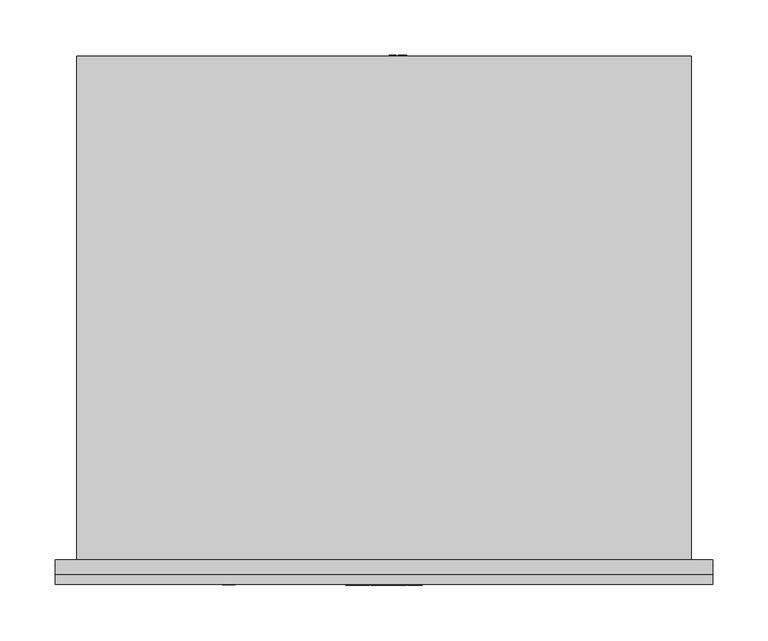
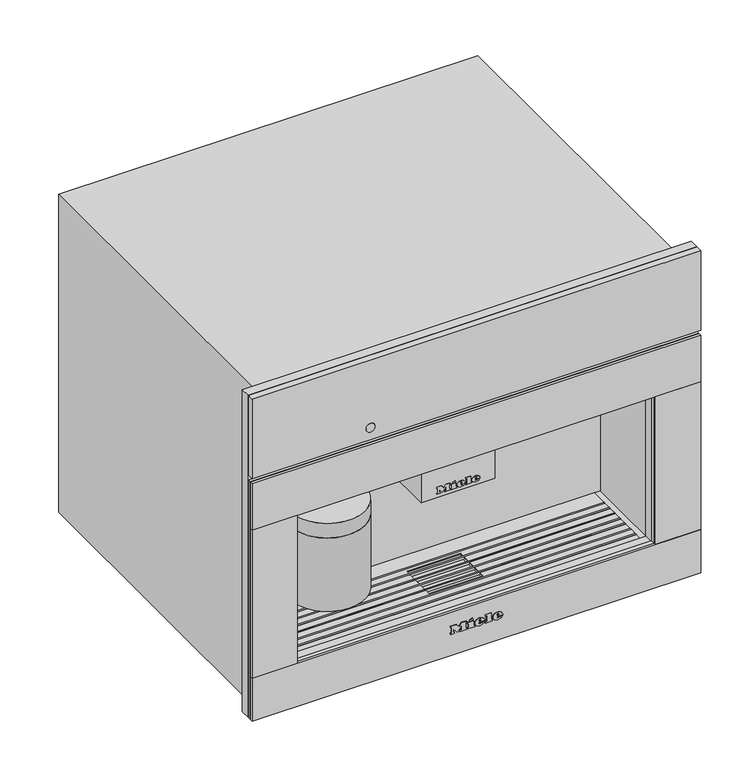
"""IFC4 building model written with IfcOpenShell, lengths in millimetres: proxy geometry, 12642250_GBX_CVA7440_PEBE : 29744050_GBX_12642250_CVA7440_PEBE."""

from ifc_helpers import new_model, si_unit, point, frame, frame_2d, origin, place, context, project, spatial, polyline, circle_curve, ellipse_curve, trimmed, segment, composite_curve, outline, extrude, faceted_brep, source, transform, mapped, element, save
from ifc_brep_helpers import plane_surface, cylinder_surface, revolved_surface, extruded_surface, advanced_brep


def specialty_equipment_f7a23d79(model_context):
    return source(origin(), model_context, "Body", "SolidModel", [
        extrude(outline(composite_curve([segment(trimmed(circle_curve(frame_2d((-14.0, 36.5)), 5.0), [point((-9.0, 36.5))], [point((-19.0, 36.5))], False, "CARTESIAN"), True, "CONTINUOUS"), segment(trimmed(circle_curve(frame_2d((-14.0, 36.5)), 5.0), [point((-19.0, 36.5))], [point((-9.0, 36.5))], False, "CARTESIAN"), True, "CONTINUOUS")], self_intersect=False)), frame((0.0, 0.0, 193.0), z_axis=(0.0, 0.0, 1.0), x_axis=(1.0, 0.0, 0.0)), (0.0, 0.0, 1.0), 5.0),
        extrude(outline(composite_curve([segment(trimmed(circle_curve(frame_2d((14.0, 36.5)), 5.0), [point((19.0, 36.5))], [point((9.0, 36.5))], False, "CARTESIAN"), True, "CONTINUOUS"), segment(trimmed(circle_curve(frame_2d((14.0, 36.5)), 5.0), [point((9.0, 36.5))], [point((19.0, 36.5))], False, "CARTESIAN"), True, "CONTINUOUS")], self_intersect=False)), frame((0.0, 0.0, 193.0), z_axis=(0.0, 0.0, 1.0), x_axis=(1.0, 0.0, 0.0)), (0.0, 0.0, 1.0), 5.0),
        extrude(outline(composite_curve([segment(trimmed(circle_curve(frame_2d((-156.5, 49.5)), 50.0), [point((-106.5, 49.5))], [point((-206.5, 49.5))], False, "CARTESIAN"), True, "CONTINUOUS"), segment(trimmed(circle_curve(frame_2d((-156.5, 49.5)), 50.0), [point((-206.5, 49.5))], [point((-106.5, 49.5))], False, "CARTESIAN"), True, "CONTINUOUS")], self_intersect=False)), frame((0.0, 0.0, 100.0), z_axis=(0.0, 0.0, 1.0), x_axis=(1.0, 0.0, 0.0)), (0.0, 0.0, 1.0), 103.0),
        extrude(outline(polyline([(-49.0, 95.0), (49.0, 95.0), (49.0, 20.0), (-49.0, 20.0), (-49.0, 95.0)])), frame((0.0, 0.0, 198.0), z_axis=(0.0, 0.0, 1.0), x_axis=(1.0, 0.0, 0.0)), (0.0, 0.0, 1.0), 75.0),
        extrude(outline(polyline([(455.5, 297.5), (455.5, -297.5), (4.0, -297.5), (4.0, 297.5), (455.5, 297.5)]), holes=[polyline([(273.0, 237.5), (63.0, 237.5), (63.0, -237.5), (273.0, -237.5), (273.0, 237.5)])]), frame((0.0, -13.0, 0.0), z_axis=(0.0, 1.0, 0.0), x_axis=(0.0, 0.0, 1.0)), (0.0, 0.0, 1.0), 13.0),
        extrude(outline(polyline([(97.0, 20.4012141), (107.045631, 20.4012141), (107.045631, 13.1809168), (105.7899271, 13.1809168), (105.7899271, 19.1455102), (102.8076304, 19.1455102), (102.8076304, 13.4948427), (101.5519266, 13.4948427), (101.5519266, 19.1455102), (98.2557039, 19.1455102), (98.2557039, 13.0239538), (97.0, 13.0239538), (97.0, 20.4012141)])), frame((0.0, 456.0, 0.0), z_axis=(0.0, 1.0, 0.0), x_axis=(0.0, 0.0, 1.0)), (0.0, 0.0, 1.0), 1.0),
        extrude(outline(polyline([(97.0, 11.140398), (107.045631, 11.140398), (107.045631, 9.8846941), (98.2557039, 9.8846941), (98.2557039, 4.8618786), (97.0, 4.8618786), (97.0, 11.140398)])), frame((0.0, 456.0, 0.0), z_axis=(0.0, 1.0, 0.0), x_axis=(0.0, 0.0, 1.0)), (0.0, 0.0, 1.0), 1.0),
        advanced_brep(
        [(55.0, 425.5, 102.0), (55.0, 410.5, 102.0), (20.5239538, 425.5, 102.0), (5.5239538, 410.5, 102.0), (20.5239538, 456.0, 102.0), (5.5239538, 456.0, 102.0)],
        [
            (0, 1, circle_curve(frame((55.0, 418.0, 102.0), z_axis=(1.0, 0.0, 0.0), x_axis=(0.0, -1.0, 0.0)), 7.5)),
            (1, 0, circle_curve(frame((55.0, 418.0, 102.0), z_axis=(1.0, 0.0, 0.0), x_axis=(0.0, -1.0, 0.0)), 7.5)),
            (0, 2),
            (2, 3, ellipse_curve(frame((13.0239538, 418.0, 102.0), z_axis=(0.7071067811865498, -0.7071067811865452, 0.0), x_axis=(0.7071067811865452, 0.7071067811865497, 0.0)), 10.6066017, 7.5)),
            (3, 1),
            (3, 2, ellipse_curve(frame((13.0239538, 418.0, 102.0), z_axis=(0.7071067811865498, -0.7071067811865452, 0.0), x_axis=(0.7071067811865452, 0.7071067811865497, 0.0)), 10.6066017, 7.5)),
            (4, 5, circle_curve(frame((13.0239538, 456.0, 102.0), z_axis=(0.0, 1.0, 0.0), x_axis=(-1.0, 0.0, 0.0)), 7.5)),
            (5, 4, circle_curve(frame((13.0239538, 456.0, 102.0), z_axis=(0.0, 1.0, 0.0), x_axis=(-1.0, 0.0, 0.0)), 7.5)),
            (2, 4),
            (5, 3),
        ],
        [
            plane_surface(frame((55.0, 418.0, 102.0), z_axis=(1.0, 0.0, 0.0), x_axis=(0.0, 0.0, 1.0))),
            cylinder_surface(frame((55.0, 418.0, 102.0), z_axis=(1.0, 0.0, 0.0), x_axis=(0.0, -1.0, 0.0)), 7.5),
            plane_surface(frame((13.0239538, 456.0, 102.0), z_axis=(0.0, 1.0, 0.0), x_axis=(0.0, 0.0, 1.0))),
            cylinder_surface(frame((13.0239538, 418.0, 102.0), z_axis=(0.0, -1.0, 0.0), x_axis=(-1.0, 0.0, 0.0)), 7.5),
        ],
        [
            (0, [[1, 2]]),
            (1, [[-1, 3, 4, 5]]),
            (1, [[-2, -5, 6, -3]]),
            (2, [[7, 8]]),
            (3, [[-4, 9, -8, 10]]),
            (3, [[-6, -10, -7, -9]]),
        ],
    ),
        advanced_brep(
        [(-110.0, 49.5, 252.0), (-203.0, 49.5, 252.0), (-206.5, 49.5, 223.5), (-106.5, 49.5, 223.5), (-110.0, 49.5, 273.0), (-203.0, 49.5, 273.0), (-156.5, 49.5, 273.0), (-106.5, 49.5, 203.0), (-206.5, 49.5, 203.0), (-156.5, 49.5, 203.0)],
        [
            (0, 1, circle_curve(frame((-156.5, 49.5, 252.0), z_axis=(0.0, 0.0, -1.0), x_axis=(-1.0, 0.0, 0.0)), 46.5)),
            (1, 2, circle_curve(frame((-206.7961166, 49.5, 238.0012775), z_axis=(0.0, 1.0, 0.0), x_axis=(-1.0, 0.0, 0.0)), 14.5043005)),
            (2, 3, circle_curve(frame((-156.5, 49.5, 223.5), z_axis=(0.0, 0.0, 1.0), x_axis=(-1.0, 0.0, 0.0)), 50.0)),
            (3, 0, circle_curve(frame((-106.2038834, 49.5, 238.0012775), z_axis=(0.0, 1.0, 0.0), x_axis=(1.0, 0.0, 0.0)), 14.5043005)),
            (4, 5, circle_curve(frame((-156.5, 49.5, 273.0), z_axis=(0.0, 0.0, -1.0), x_axis=(-1.0, 0.0, 0.0)), 46.5)),
            (5, 1),
            (0, 4),
            (6, 4),
            (4, 5, circle_curve(frame((-156.5, 49.5, 273.0), z_axis=(0.0, 0.0, 1.0), x_axis=(-1.0, 0.0, 0.0)), 46.5)),
            (5, 6),
            (7, 8, circle_curve(frame((-156.5, 49.5, 203.0), z_axis=(0.0, 0.0, -1.0), x_axis=(-1.0, 0.0, 0.0)), 50.0)),
            (8, 9),
            (9, 7),
            (8, 7, circle_curve(frame((-156.5, 49.5, 203.0), z_axis=(0.0, 0.0, -1.0), x_axis=(-1.0, 0.0, 0.0)), 50.0)),
            (2, 8),
            (7, 3),
            (2, 3, circle_curve(frame((-156.5, 49.5, 223.5), z_axis=(0.0, 0.0, -1.0), x_axis=(-1.0, 0.0, 0.0)), 50.0)),
            (1, 0, circle_curve(frame((-156.5, 49.5, 252.0), z_axis=(0.0, 0.0, -1.0), x_axis=(-1.0, 0.0, 0.0)), 46.5)),
        ],
        [
            revolved_surface(trimmed(ellipse_curve(frame((-206.7961166, 49.5, 238.0012775), z_axis=(0.0, -1.0, 0.0), x_axis=(-1.0, 0.0, 0.0)), 14.5043005, 14.5043005), [point((-206.5, 49.5, 223.5))], [point((-203.0, 49.5, 252.0))], True, "CARTESIAN"), (-156.5, 49.5, 388.7361736), (0.0, 0.0, 1.0)),
            cylinder_surface(frame((-156.5, 49.5, 388.7361736), z_axis=(0.0, 0.0, 1.0), x_axis=(-1.0, 0.0, 0.0)), 46.5),
            plane_surface(frame((-156.5, 49.5, 273.0), z_axis=(0.0, 0.0, 1.0), x_axis=(-1.0, 0.0, 0.0))),
            plane_surface(frame((-156.5, 49.5, 203.0), z_axis=(0.0, 0.0, -1.0), x_axis=(-1.0, 0.0, 0.0))),
            cylinder_surface(frame((-156.5, 49.5, 388.7361736), z_axis=(0.0, 0.0, 1.0), x_axis=(-1.0, 0.0, 0.0)), 50.0),
        ],
        [
            (0, [[1, 2, 3, 4]]),
            (1, [[5, 6, -1, 7]]),
            (2, [[8, 9, 10]]),
            (3, [[11, 12, 13]]),
            (3, [[14, -13, -12]]),
            (4, [[-3, 15, -11, 16]]),
            (4, [[17, -16, -14, -15]]),
            (0, [[18, -4, -17, -2]]),
            (1, [[-9, -7, -18, -6]]),
            (2, [[-10, -5, -8]]),
        ],
    ),
        faceted_brep([(229.5, 82.0925571, 60.0), (229.5, 80.0925571, 60.0), (-229.5, 80.0925571, 60.0), (-229.5, 82.0925571, 60.0), (229.5, 70.0550731, 60.0), (229.5, 68.0550731, 60.0), (-229.5, 68.0550731, 60.0), (-229.5, 70.0550731, 60.0), (229.5, 58.0175891, 60.0), (229.5, 56.0175891, 60.0), (-229.5, 56.0175891, 60.0), (-229.5, 58.0175891, 60.0), (229.5, 45.9801052, 60.0), (229.5, 43.9801052, 60.0), (-229.5, 43.9801052, 60.0), (-229.5, 45.9801052, 60.0), (229.5, 33.9426212, 60.0), (229.5, 31.9426212, 60.0), (-229.5, 31.9426212, 60.0), (-229.5, 33.9426212, 60.0), (229.5, 21.9776522, 60.0), (229.5, 19.9776522, 60.0), (-229.5, 19.9776522, 60.0), (-229.5, 21.9776522, 60.0), (229.5, 10.0, 60.0), (229.5, 8.0, 60.0), (-229.5, 8.0, 60.0), (-229.5, 10.0, 60.0), (-229.5, 45.9801052, 62.0), (-36.0, 45.9801052, 62.0), (-36.0, 45.9801052, 63.0), (-229.5, 45.9801052, 63.0), (-229.5, 45.9801052, 63.5), (229.5, 45.9801052, 63.5), (229.5, 45.9801052, 63.0), (36.0, 45.9801052, 63.0), (36.0, 45.9801052, 62.0), (229.5, 45.9801052, 62.0), (229.5, 19.9776522, 62.0), (229.5, 10.0, 62.0), (-229.5, 10.0, 62.0), (-229.5, 19.9776522, 62.0), (229.5, 43.9801052, 62.0), (229.5, 33.9426212, 62.0), (36.0, 33.9426212, 62.0), (36.0, 43.9801052, 62.0), (229.5, 56.0175891, 62.0), (36.0, 56.0175891, 62.0), (229.5, 68.0550731, 62.0), (229.5, 58.0175891, 62.0), (36.0, 58.0175891, 62.0), (36.0, 68.0550731, 62.0), (-229.5, 33.9426212, 62.0), (-229.5, 43.9801052, 62.0), (-36.0, 43.9801052, 62.0), (-36.0, 33.9426212, 62.0), (-229.5, 56.0175891, 62.0), (-36.0, 56.0175891, 62.0), (-229.5, 58.0175891, 62.0), (-229.5, 68.0550731, 62.0), (-36.0, 68.0550731, 62.0), (-36.0, 58.0175891, 62.0), (-229.5, 104.5, 62.0), (229.5, 104.5, 62.0), (229.5, 82.0925571, 62.0), (-229.5, 82.0925571, 62.0), (36.0, 76.0, 62.0), (-36.0, 76.0, 62.0), (-36.0, 70.0550731, 62.0), (-229.5, 70.0550731, 62.0), (-229.5, 80.0925571, 62.0), (229.5, 80.0925571, 62.0), (229.5, 70.0550731, 62.0), (36.0, 70.0550731, 62.0), (229.5, 0.0, 62.0), (-229.5, 0.0, 62.0), (-229.5, 8.0, 62.0), (229.5, 8.0, 62.0), (-36.0, 25.0, 62.0), (36.0, 25.0, 62.0), (36.0, 31.9426212, 62.0), (229.5, 31.9426212, 62.0), (229.5, 21.9776522, 62.0), (-229.5, 21.9776522, 62.0), (-229.5, 31.9426212, 62.0), (-36.0, 31.9426212, 62.0), (229.5, 104.5, 63.0), (-229.5, 104.5, 63.0), (-229.5, 82.0925571, 63.0), (229.5, 82.0925571, 63.0), (-229.5, 0.0, 63.0), (229.5, 0.0, 63.0), (229.5, 8.0, 63.0), (-229.5, 8.0, 63.0), (-36.0, 76.0, 63.0), (36.0, 76.0, 63.0), (36.0, 70.0550731, 63.0), (229.5, 70.0550731, 63.0), (229.5, 80.0925571, 63.0), (-229.5, 80.0925571, 63.0), (-229.5, 70.0550731, 63.0), (-36.0, 70.0550731, 63.0), (36.0, 25.0, 63.0), (-36.0, 25.0, 63.0), (-36.0, 31.9426212, 63.0), (-229.5, 31.9426212, 63.0), (-229.5, 21.9776522, 63.0), (229.5, 21.9776522, 63.0), (229.5, 31.9426212, 63.0), (36.0, 31.9426212, 63.0), (-229.5, 19.9776522, 63.0), (-229.5, 10.0, 63.0), (229.5, 10.0, 63.0), (229.5, 19.9776522, 63.0), (-229.5, 43.9801052, 63.0), (-229.5, 33.9426212, 63.0), (-36.0, 33.9426212, 63.0), (-36.0, 43.9801052, 63.0), (-229.5, 56.0175891, 63.0), (-36.0, 56.0175891, 63.0), (-229.5, 68.0550731, 63.0), (-229.5, 58.0175891, 63.0), (-36.0, 58.0175891, 63.0), (-36.0, 68.0550731, 63.0), (229.5, 33.9426212, 63.0), (229.5, 43.9801052, 63.0), (36.0, 43.9801052, 63.0), (36.0, 33.9426212, 63.0), (229.5, 56.0175891, 63.0), (36.0, 56.0175891, 63.0), (229.5, 58.0175891, 63.0), (229.5, 68.0550731, 63.0), (36.0, 68.0550731, 63.0), (36.0, 58.0175891, 63.0), (-229.5, 8.0, 63.5), (-229.5, 10.0, 63.5), (-229.5, 19.9776522, 63.5), (-229.5, 21.9776522, 63.5), (-229.5, 31.9426212, 63.5), (-229.5, 33.9426212, 63.5), (-229.5, 43.9801052, 63.5), (-229.5, 56.0175891, 63.5), (-229.5, 58.0175891, 63.5), (-229.5, 68.0550731, 63.5), (-229.5, 70.0550731, 63.5), (-229.5, 80.0925571, 63.5), (-229.5, 82.0925571, 63.5), (229.5, 82.0925571, 63.5), (229.5, 80.0925571, 63.5), (229.5, 70.0550731, 63.5), (229.5, 68.0550731, 63.5), (229.5, 58.0175891, 63.5), (229.5, 56.0175891, 63.5), (229.5, 43.9801052, 63.5), (229.5, 33.9426212, 63.5), (229.5, 31.9426212, 63.5), (229.5, 21.9776522, 63.5), (229.5, 19.9776522, 63.5), (229.5, 10.0, 63.5), (229.5, 8.0, 63.5)], [[[0, 1, 2, 3]], [[4, 5, 6, 7]], [[8, 9, 10, 11]], [[12, 13, 14, 15]], [[16, 17, 18, 19]], [[20, 21, 22, 23]], [[24, 25, 26, 27]], [[12, 15, 28, 29, 30, 31, 32, 33, 34, 35, 36, 37]], [[38, 39, 40, 41]], [[42, 43, 44, 45]], [[46, 37, 36, 47]], [[48, 49, 50, 51]], [[52, 53, 54, 55]], [[28, 56, 57, 29]], [[58, 59, 60, 61]], [[62, 63, 64, 65]], [[66, 67, 68, 69, 70, 71, 72, 73]], [[74, 75, 76, 77]], [[78, 79, 80, 81, 82, 83, 84, 85]], [[86, 87, 88, 89]], [[90, 91, 92, 93]], [[94, 95, 96, 97, 98, 99, 100, 101]], [[102, 103, 104, 105, 106, 107, 108, 109]], [[110, 111, 112, 113]], [[114, 115, 116, 117]], [[118, 31, 30, 119]], [[120, 121, 122, 123]], [[124, 125, 126, 127]], [[34, 128, 129, 35]], [[130, 131, 132, 133]], [[63, 62, 87, 86]], [[87, 62, 65, 3, 2, 70, 69, 7, 6, 59, 58, 11, 10, 56, 28, 15, 14, 53, 52, 19, 18, 84, 83, 23, 22, 41, 40, 27, 26, 76, 75, 90, 93, 134, 135, 111, 110, 136, 137, 106, 105, 138, 139, 115, 114, 140, 32, 31, 118, 141, 142, 121, 120, 143, 144, 100, 99, 145, 146, 88]], [[75, 74, 91, 90]], [[63, 86, 89, 147, 148, 98, 97, 149, 150, 131, 130, 151, 152, 128, 34, 33, 153, 125, 124, 154, 155, 108, 107, 156, 157, 113, 112, 158, 159, 92, 91, 74, 77, 25, 24, 39, 38, 21, 20, 82, 81, 17, 16, 43, 42, 13, 12, 37, 46, 9, 8, 49, 48, 5, 4, 72, 71, 1, 0, 64]], [[66, 95, 94, 67]], [[55, 54, 117, 116]], [[29, 57, 119, 30]], [[61, 60, 123, 122]], [[67, 94, 101, 68]], [[103, 78, 85, 104]], [[78, 103, 102, 79]], [[45, 44, 127, 126]], [[47, 36, 35, 129]], [[51, 50, 133, 132]], [[95, 66, 73, 96]], [[79, 102, 109, 80]], [[158, 135, 134, 159]], [[156, 137, 136, 157]], [[154, 139, 138, 155]], [[33, 32, 140, 153]], [[151, 142, 141, 152]], [[149, 144, 143, 150]], [[147, 146, 145, 148]], [[24, 27, 40, 39]], [[135, 158, 112, 111]], [[26, 25, 77, 76]], [[159, 134, 93, 92]], [[20, 23, 83, 82]], [[137, 156, 107, 106]], [[22, 21, 38, 41]], [[157, 136, 110, 113]], [[16, 19, 52, 55, 116, 115, 139, 154, 124, 127, 44, 43]], [[18, 17, 81, 80, 109, 108, 155, 138, 105, 104, 85, 84]], [[14, 13, 42, 45, 126, 125, 153, 140, 114, 117, 54, 53]], [[8, 11, 58, 61, 122, 121, 142, 151, 130, 133, 50, 49]], [[10, 9, 46, 47, 129, 128, 152, 141, 118, 119, 57, 56]], [[4, 7, 69, 68, 101, 100, 144, 149, 97, 96, 73, 72]], [[6, 5, 48, 51, 132, 131, 150, 143, 120, 123, 60, 59]], [[0, 3, 65, 64]], [[146, 147, 89, 88]], [[2, 1, 71, 70]], [[148, 145, 99, 98]]]),
        faceted_brep([(-278.0, 456.0, 0.0), (-278.0, 0.0, 0.0), (-278.0, 0.0, 446.0), (-278.0, 456.0, 446.0), (278.0, 456.0, 0.0), (278.0, 456.0, 446.0), (278.0, 0.0, 446.0), (278.0, 0.0, 0.0), (55.0, 456.0, 133.0), (-22.0, 456.0, 133.0), (-22.0, 456.0, 89.0), (35.0, 456.0, 66.0), (55.0, 456.0, 66.0), (-36.0, 76.0, 58.0), (36.0, 76.0, 58.0), (36.0, 76.0, 62.0), (-36.0, 76.0, 62.0), (36.0, 25.0, 58.0), (-36.0, 25.0, 58.0), (-36.0, 25.0, 62.0), (36.0, 25.0, 62.0), (237.5, 0.0, 273.0), (237.5, 0.0, 63.0), (229.5, 0.0, 63.0), (229.5, 0.0, 62.0), (-229.5, 0.0, 62.0), (-229.5, 0.0, 63.0), (-237.5, 0.0, 63.0), (-237.5, 0.0, 273.0), (237.5, 104.5, 273.0), (-237.5, 104.5, 273.0), (-237.5, 104.5, 63.0), (-229.5, 104.5, 63.0), (-229.5, 104.5, 62.0), (229.5, 104.5, 62.0), (229.5, 104.5, 63.0), (237.5, 104.5, 63.0), (-22.0, 400.0, 133.0), (55.0, 400.0, 133.0), (55.0, 400.0, 66.0), (35.0, 400.0, 66.0), (-22.0, 400.0, 89.0)], [[[0, 1, 2, 3]], [[4, 5, 6, 7]], [[0, 3, 5, 4], [8, 9, 10, 11, 12]], [[13, 14, 15, 16]], [[17, 18, 19, 20]], [[3, 2, 6, 5]], [[2, 1, 7, 6], [21, 22, 23, 24, 25, 26, 27, 28]], [[1, 0, 4, 7]], [[29, 30, 31, 32, 33, 34, 35, 36]], [[29, 36, 22, 21]], [[22, 36, 35, 23]], [[31, 27, 26, 32]], [[31, 30, 28, 27]], [[30, 29, 21, 28]], [[34, 33, 25, 24], [16, 15, 20, 19]], [[25, 33, 32, 26]], [[34, 24, 23, 35]], [[14, 13, 18, 17]], [[18, 13, 16, 19]], [[14, 17, 20, 15]], [[37, 38, 39, 40, 41]], [[38, 37, 9, 8]], [[39, 38, 8, 12]], [[40, 39, 12, 11]], [[41, 40, 11, 10]], [[37, 41, 10, 9]]]),
        advanced_brep(
        [(27.088, -23.0, 36.7018), (27.088, -23.0, 37.8532), (34.7146, -23.0, 37.8532), (21.445, -23.0, 37.8532), (24.58, -23.0, 34.0), (34.5208, -23.0, 36.7018), (31.078, -23.0, 36.7018), (28.3648, -23.0, 35.425), (27.088, -23.0, 39.3124), (27.088, -23.0, 40.555), (29.0374, -23.0, 40.555), (29.0374, -23.0, 39.3124), (27.088, -22.0, 36.7018), (28.3648, -22.0, 35.425), (31.078, -22.0, 36.7018), (34.5208, -22.0, 36.7018), (24.58, -22.0, 34.0), (21.445, -22.0, 37.8532), (34.7146, -22.0, 37.8532), (27.088, -22.0, 37.8532), (27.088, -22.0, 39.3124), (29.0374, -22.0, 39.3124), (29.0374, -22.0, 40.555), (27.088, -22.0, 40.555)],
        [
            (0, 1),
            (1, 2),
            (2, 3, ellipse_curve(frame((28.0798, -23.0, 37.8532), z_axis=(0.0, -1.0, 0.0), x_axis=(-1.0, 0.0, 0.0)), 6.6348, 5.4834)),
            (3, 4, circle_curve(frame((25.8568622, -23.0, 38.2408), z_axis=(0.0, -1.0, 0.0), x_axis=(0.0, 0.0, -1.0)), 4.4288556)),
            (4, 5, circle_curve(frame((27.9469808, -23.0, 41.2504), z_axis=(0.0, -1.0, 0.0), x_axis=(0.0, 0.0, -1.0)), 7.9940516)),
            (5, 6),
            (6, 7, circle_curve(frame((28.9220588, -23.0, 37.762), z_axis=(0.0, 1.0, 0.0), x_axis=(0.0, 0.0, -1.0)), 2.4025208)),
            (7, 0, circle_curve(frame((28.3648, -23.0, 36.7018), z_axis=(0.0, 1.0, 0.0), x_axis=(0.0, 0.0, -1.0)), 1.2768)),
            (8, 9),
            (9, 10, circle_curve(frame((28.0627, -23.0, 40.555), z_axis=(0.0, 1.0, 0.0), x_axis=(0.0, 0.0, -1.0)), 0.9747)),
            (10, 11),
            (11, 8),
            (12, 13, circle_curve(frame((28.3648, -22.0, 36.7018), z_axis=(0.0, -1.0, 0.0), x_axis=(0.0, 0.0, -1.0)), 1.2768)),
            (13, 14, circle_curve(frame((28.9220588, -22.0, 37.762), z_axis=(0.0, -1.0, 0.0), x_axis=(0.0, 0.0, -1.0)), 2.4025208)),
            (14, 15),
            (15, 16, circle_curve(frame((27.9469808, -22.0, 41.2504), z_axis=(0.0, 1.0, 0.0), x_axis=(0.0, 0.0, -1.0)), 7.9940516)),
            (16, 17, circle_curve(frame((25.8568622, -22.0, 38.2408), z_axis=(0.0, 1.0, 0.0), x_axis=(0.0, 0.0, -1.0)), 4.4288556)),
            (17, 18, ellipse_curve(frame((28.0798, -22.0, 37.8532), z_axis=(0.0, 1.0, 0.0), x_axis=(-1.0, 0.0, 0.0)), 6.6348, 5.4834)),
            (18, 19),
            (19, 12),
            (20, 21),
            (21, 22),
            (22, 23, circle_curve(frame((28.0627, -22.0, 40.555), z_axis=(0.0, -1.0, 0.0), x_axis=(0.0, 0.0, -1.0)), 0.9747)),
            (23, 20),
            (0, 12),
            (19, 1),
            (18, 2),
            (5, 15),
            (14, 6),
            (17, 3),
            (13, 7),
            (16, 4),
            (8, 20),
            (23, 9),
            (22, 10),
            (21, 11),
        ],
        [
            plane_surface(frame((27.088, -23.0, 37.8532), z_axis=(0.0, -1.0, 0.0), x_axis=(0.0, 0.0, 1.0))),
            plane_surface(frame((27.088, -22.0, 37.8532), z_axis=(0.0, 1.0, 0.0), x_axis=(0.0, 0.0, -1.0))),
            plane_surface(frame((27.088, -23.0, 36.7018), z_axis=(1.0, 0.0, 0.0), x_axis=(0.0, 1.0, 0.0))),
            plane_surface(frame((27.088, -23.0, 37.8532), z_axis=(0.0, 0.0, -1.0), x_axis=(0.0, 1.0, 0.0))),
            plane_surface(frame((34.5208, -23.0, 36.7018), z_axis=(0.0, 0.0, 1.0), x_axis=(0.0, 1.0, 0.0))),
            extruded_surface(trimmed(ellipse_curve(frame((28.0798, -21.0, 37.8532), z_axis=(0.0, -1.0, 0.0), x_axis=(-1.0, 0.0, 0.0)), 6.6348, 5.4834), [point((34.7146, -21.0, 37.8532))], [point((21.445, -21.0, 37.8532))], True, "CARTESIAN"), (0.0, -1.0, 0.0), 1.0),
            revolved_surface(polyline([(28.9220588, -22.0, 35.3594792), (28.9220588, -23.0, 35.3594792)]), (28.9220588, -22.0, 37.762), (0.0, 1.0, 0.0)),
            revolved_surface(polyline([(28.3648, -22.0, 35.425), (28.3648, -23.0, 35.425)]), (28.3648, -22.0, 36.7018), (0.0, 1.0, 0.0)),
            cylinder_surface(frame((25.8568622, -22.0, 38.2408), z_axis=(0.0, -1.0, 0.0), x_axis=(0.0, 0.0, -1.0)), 4.4288556),
            cylinder_surface(frame((27.9469808, -22.0, 41.2504), z_axis=(0.0, -1.0, 0.0), x_axis=(0.0, 0.0, -1.0)), 7.9940516),
            plane_surface(frame((27.088, -23.0, 39.3124), z_axis=(1.0, 0.0, 0.0), x_axis=(0.0, 1.0, 0.0))),
            revolved_surface(polyline([(28.0627, -22.0, 39.5803), (28.0627, -23.0, 39.5803)]), (28.0627, -22.0, 40.555), (0.0, 1.0, 0.0)),
            plane_surface(frame((29.0374, -23.0, 40.555), z_axis=(-1.0, 0.0, 0.0), x_axis=(0.0, 1.0, 0.0))),
            plane_surface(frame((29.0374, -23.0, 39.3124), z_axis=(0.0, 0.0, 1.0), x_axis=(0.0, 1.0, 0.0))),
        ],
        [
            (0, [[1, 2, 3, 4, 5, 6, 7, 8], [9, 10, 11, 12]]),
            (1, [[13, 14, 15, 16, 17, 18, 19, 20], [21, 22, 23, 24]]),
            (2, [[-1, 25, -20, 26]]),
            (3, [[-2, -26, -19, 27]]),
            (4, [[-6, 28, -15, 29]]),
            (5, [[-3, -27, -18, 30]]),
            (6, [[-7, -29, -14, 31]]),
            (7, [[-8, -31, -13, -25]]),
            (8, [[-4, -30, -17, 32]]),
            (9, [[-5, -32, -16, -28]]),
            (10, [[-9, 33, -24, 34]]),
            (11, [[-10, -34, -23, 35]]),
            (12, [[-11, -35, -22, 36]]),
            (13, [[-12, -36, -21, -33]]),
        ],
    ),
        advanced_brep(
        [(3.2962, -23.0, 36.7018), (3.2962, -23.0, 37.8532), (10.9228, -23.0, 37.8532), (-2.3468, -23.0, 37.8532), (0.7882, -23.0, 34.0), (10.729, -23.0, 36.7018), (7.2862, -23.0, 36.7018), (4.573, -23.0, 35.425), (3.2962, -23.0, 39.3124), (3.2962, -23.0, 40.555), (5.2456, -23.0, 40.555), (5.2456, -23.0, 39.3124), (3.2962, -22.0, 36.7018), (4.573, -22.0, 35.425), (7.2862, -22.0, 36.7018), (10.729, -22.0, 36.7018), (0.7882, -22.0, 34.0), (-2.3468, -22.0, 37.8532), (10.9228, -22.0, 37.8532), (3.2962, -22.0, 37.8532), (3.2962, -22.0, 39.3124), (5.2456, -22.0, 39.3124), (5.2456, -22.0, 40.555), (3.2962, -22.0, 40.555)],
        [
            (0, 1),
            (1, 2),
            (2, 3, ellipse_curve(frame((4.288, -23.0, 37.8532), z_axis=(0.0, -1.0, 0.0), x_axis=(-1.0, 0.0, 0.0)), 6.6348, 5.4834)),
            (3, 4, circle_curve(frame((2.0650622, -23.0, 38.2408), z_axis=(0.0, -1.0, 0.0), x_axis=(0.0, 0.0, -1.0)), 4.4288556)),
            (4, 5, circle_curve(frame((4.1551808, -23.0, 41.2504), z_axis=(0.0, -1.0, 0.0), x_axis=(0.0, 0.0, -1.0)), 7.9940516)),
            (5, 6),
            (6, 7, circle_curve(frame((5.1302588, -23.0, 37.762), z_axis=(0.0, 1.0, 0.0), x_axis=(0.0, 0.0, -1.0)), 2.4025208)),
            (7, 0, circle_curve(frame((4.573, -23.0, 36.7018), z_axis=(0.0, 1.0, 0.0), x_axis=(0.0, 0.0, -1.0)), 1.2768)),
            (8, 9),
            (9, 10, circle_curve(frame((4.2709, -23.0, 40.555), z_axis=(0.0, 1.0, 0.0), x_axis=(0.0, 0.0, -1.0)), 0.9747)),
            (10, 11),
            (11, 8),
            (12, 13, circle_curve(frame((4.573, -22.0, 36.7018), z_axis=(0.0, -1.0, 0.0), x_axis=(0.0, 0.0, -1.0)), 1.2768)),
            (13, 14, circle_curve(frame((5.1302588, -22.0, 37.762), z_axis=(0.0, -1.0, 0.0), x_axis=(0.0, 0.0, -1.0)), 2.4025208)),
            (14, 15),
            (15, 16, circle_curve(frame((4.1551808, -22.0, 41.2504), z_axis=(0.0, 1.0, 0.0), x_axis=(0.0, 0.0, -1.0)), 7.9940516)),
            (16, 17, circle_curve(frame((2.0650622, -22.0, 38.2408), z_axis=(0.0, 1.0, 0.0), x_axis=(0.0, 0.0, -1.0)), 4.4288556)),
            (17, 18, ellipse_curve(frame((4.288, -22.0, 37.8532), z_axis=(0.0, 1.0, 0.0), x_axis=(-1.0, 0.0, 0.0)), 6.6348, 5.4834)),
            (18, 19),
            (19, 12),
            (20, 21),
            (21, 22),
            (22, 23, circle_curve(frame((4.2709, -22.0, 40.555), z_axis=(0.0, -1.0, 0.0), x_axis=(0.0, 0.0, -1.0)), 0.9747)),
            (23, 20),
            (0, 12),
            (19, 1),
            (18, 2),
            (5, 15),
            (14, 6),
            (17, 3),
            (13, 7),
            (16, 4),
            (8, 20),
            (23, 9),
            (22, 10),
            (21, 11),
        ],
        [
            plane_surface(frame((3.2962, -23.0, 37.8532), z_axis=(0.0, -1.0, 0.0), x_axis=(0.0, 0.0, 1.0))),
            plane_surface(frame((3.2962, -22.0, 37.8532), z_axis=(0.0, 1.0, 0.0), x_axis=(0.0, 0.0, -1.0))),
            plane_surface(frame((3.2962, -23.0, 36.7018), z_axis=(1.0, 0.0, 0.0), x_axis=(0.0, 1.0, 0.0))),
            plane_surface(frame((3.2962, -23.0, 37.8532), z_axis=(0.0, 0.0, -1.0), x_axis=(0.0, 1.0, 0.0))),
            plane_surface(frame((10.729, -23.0, 36.7018), z_axis=(0.0, 0.0, 1.0), x_axis=(0.0, 1.0, 0.0))),
            extruded_surface(trimmed(ellipse_curve(frame((4.288, -21.0, 37.8532), z_axis=(0.0, -1.0, 0.0), x_axis=(-1.0, 0.0, 0.0)), 6.6348, 5.4834), [point((10.9228, -21.0, 37.8532))], [point((-2.3468, -21.0, 37.8532))], True, "CARTESIAN"), (0.0, -1.0, 0.0), 1.0),
            revolved_surface(polyline([(5.1302588, -22.0, 35.3594792), (5.1302588, -23.0, 35.3594792)]), (5.1302588, -22.0, 37.762), (0.0, 1.0, 0.0)),
            revolved_surface(polyline([(4.573, -22.0, 35.425), (4.573, -23.0, 35.425)]), (4.573, -22.0, 36.7018), (0.0, 1.0, 0.0)),
            cylinder_surface(frame((2.0650622, -22.0, 38.2408), z_axis=(0.0, -1.0, 0.0), x_axis=(0.0, 0.0, -1.0)), 4.4288556),
            cylinder_surface(frame((4.1551808, -22.0, 41.2504), z_axis=(0.0, -1.0, 0.0), x_axis=(0.0, 0.0, -1.0)), 7.9940516),
            plane_surface(frame((3.2962, -23.0, 39.3124), z_axis=(1.0, 0.0, 0.0), x_axis=(0.0, 1.0, 0.0))),
            revolved_surface(polyline([(4.2709, -22.0, 39.5803), (4.2709, -23.0, 39.5803)]), (4.2709, -22.0, 40.555), (0.0, 1.0, 0.0)),
            plane_surface(frame((5.2456, -23.0, 40.555), z_axis=(-1.0, 0.0, 0.0), x_axis=(0.0, 1.0, 0.0))),
            plane_surface(frame((5.2456, -23.0, 39.3124), z_axis=(0.0, 0.0, 1.0), x_axis=(0.0, 1.0, 0.0))),
        ],
        [
            (0, [[1, 2, 3, 4, 5, 6, 7, 8], [9, 10, 11, 12]]),
            (1, [[13, 14, 15, 16, 17, 18, 19, 20], [21, 22, 23, 24]]),
            (2, [[-1, 25, -20, 26]]),
            (3, [[-2, -26, -19, 27]]),
            (4, [[-6, 28, -15, 29]]),
            (5, [[-3, -27, -18, 30]]),
            (6, [[-7, -29, -14, 31]]),
            (7, [[-8, -31, -13, -25]]),
            (8, [[-4, -30, -17, 32]]),
            (9, [[-5, -32, -16, -28]]),
            (10, [[-9, 33, -24, 34]]),
            (11, [[-10, -34, -23, 35]]),
            (12, [[-11, -35, -22, 36]]),
            (13, [[-12, -36, -21, -33]]),
        ],
    ),
        extrude(outline(polyline([(44.7274, -9.164), (42.8806, -8.2976), (44.6818, -4.433), (46.5286, -5.288), (44.7274, -9.164)])), frame((0.0, -23.0, 0.0), z_axis=(0.0, 1.0, 0.0), x_axis=(0.0, 0.0, 1.0)), (0.0, 0.0, 1.0), 1.0),
        extrude(outline(polyline([(42.6298, -11.9798), (40.5892, -11.9798), (40.5892, -10.6232), (35.9152, -10.6232), (35.9152, -11.9798), (34.0, -11.9798), (34.0, -2.9852), (35.9152, -2.9852), (35.9152, -4.3076), (42.6298, -4.3076), (42.6298, -11.9798)])), frame((0.0, -23.0, 0.0), z_axis=(0.0, 1.0, 0.0), x_axis=(0.0, 0.0, 1.0)), (0.0, 0.0, 1.0), 1.0),
        extrude(outline(polyline([(43.5418, 11.5612), (43.5418, 12.9292), (35.9152, 12.9292), (35.9152, 11.5612), (34.0, 11.5612), (34.0, 20.8066), (35.9152, 20.8066), (35.9152, 19.4044), (45.4, 19.4044), (45.4, 11.5612), (43.5418, 11.5612)])), frame((0.0, -23.0, 0.0), z_axis=(0.0, 1.0, 0.0), x_axis=(0.0, 0.0, 1.0)), (0.0, 0.0, 1.0), 1.0),
        extrude(outline(polyline([(43.5418, -34.7), (43.5418, -33.3206), (35.9152, -33.3206), (35.9152, -34.7), (34.0, -34.7), (34.0, -29.684), (35.9152, -29.684), (35.9152, -31.052), (40.7429247, -31.052), (34.0, -25.9562), (40.9402223, -20.8376), (35.9152, -20.8376), (35.9152, -22.2398), (34.0, -22.2398), (34.0, -13.1426), (35.9152, -13.1426), (35.9152, -14.5904), (43.5418, -14.5904), (43.5418, -13.1426), (45.4, -13.1426), (45.4, -20.0852), (41.125, -23.414), (45.4, -26.7542), (45.4, -34.7), (43.5418, -34.7)])), frame((0.0, -23.0, 0.0), z_axis=(0.0, 1.0, 0.0), x_axis=(0.0, 0.0, 1.0)), (0.0, 0.0, 1.0), 1.0),
        advanced_brep(
        [(22.348, 19.0, 205.5278), (22.348, 19.0, 206.4772), (28.6366, 19.0, 206.4772), (17.695, 19.0, 206.4772), (20.28, 19.0, 203.3), (28.4768, 19.0, 205.5278), (25.638, 19.0, 205.5278), (23.4008, 19.0, 204.475), (22.348, 19.0, 207.6804), (22.348, 19.0, 208.705), (23.9554, 19.0, 208.705), (23.9554, 19.0, 207.6804), (22.348, 20.0, 205.5278), (23.4008, 20.0, 204.475), (25.638, 20.0, 205.5278), (28.4768, 20.0, 205.5278), (20.28, 20.0, 203.3), (17.695, 20.0, 206.4772), (28.6366, 20.0, 206.4772), (22.348, 20.0, 206.4772), (22.348, 20.0, 207.6804), (23.9554, 20.0, 207.6804), (23.9554, 20.0, 208.705), (22.348, 20.0, 208.705)],
        [
            (0, 1),
            (1, 2),
            (2, 3, ellipse_curve(frame((23.1658, 19.0, 206.4772), z_axis=(0.0, -1.0, 0.0), x_axis=(-1.0, 0.0, 0.0)), 5.4708, 4.5214)),
            (3, 4, circle_curve(frame((21.3328513, 19.0, 206.7968), z_axis=(0.0, -1.0, 0.0), x_axis=(0.0, 0.0, -1.0)), 3.6518634)),
            (4, 5, circle_curve(frame((23.0562825, 19.0, 209.2784), z_axis=(0.0, -1.0, 0.0), x_axis=(0.0, 0.0, -1.0)), 6.5915864)),
            (5, 6),
            (6, 7, circle_curve(frame((23.8602941, 19.0, 206.402), z_axis=(0.0, 1.0, 0.0), x_axis=(0.0, 0.0, -1.0)), 1.981026)),
            (7, 0, circle_curve(frame((23.4008, 19.0, 205.5278), z_axis=(0.0, 1.0, 0.0), x_axis=(0.0, 0.0, -1.0)), 1.0528)),
            (8, 9),
            (9, 10, circle_curve(frame((23.1517, 19.0, 208.705), z_axis=(0.0, 1.0, 0.0), x_axis=(0.0, 0.0, -1.0)), 0.8037)),
            (10, 11),
            (11, 8),
            (12, 13, circle_curve(frame((23.4008, 20.0, 205.5278), z_axis=(0.0, -1.0, 0.0), x_axis=(0.0, 0.0, -1.0)), 1.0528)),
            (13, 14, circle_curve(frame((23.8602941, 20.0, 206.402), z_axis=(0.0, -1.0, 0.0), x_axis=(0.0, 0.0, -1.0)), 1.981026)),
            (14, 15),
            (15, 16, circle_curve(frame((23.0562825, 20.0, 209.2784), z_axis=(0.0, 1.0, 0.0), x_axis=(0.0, 0.0, -1.0)), 6.5915864)),
            (16, 17, circle_curve(frame((21.3328513, 20.0, 206.7968), z_axis=(0.0, 1.0, 0.0), x_axis=(0.0, 0.0, -1.0)), 3.6518634)),
            (17, 18, ellipse_curve(frame((23.1658, 20.0, 206.4772), z_axis=(0.0, 1.0, 0.0), x_axis=(-1.0, 0.0, 0.0)), 5.4708, 4.5214)),
            (18, 19),
            (19, 12),
            (20, 21),
            (21, 22),
            (22, 23, circle_curve(frame((23.1517, 20.0, 208.705), z_axis=(0.0, -1.0, 0.0), x_axis=(0.0, 0.0, -1.0)), 0.8037)),
            (23, 20),
            (0, 12),
            (19, 1),
            (18, 2),
            (5, 15),
            (14, 6),
            (17, 3),
            (13, 7),
            (16, 4),
            (8, 20),
            (23, 9),
            (22, 10),
            (21, 11),
        ],
        [
            plane_surface(frame((22.348, 19.0, 206.4772), z_axis=(0.0, -1.0, 0.0), x_axis=(0.0, 0.0, 1.0))),
            plane_surface(frame((22.348, 20.0, 206.4772), z_axis=(0.0, 1.0, 0.0), x_axis=(0.0, 0.0, -1.0))),
            plane_surface(frame((22.348, 19.0, 205.5278), z_axis=(1.0, 0.0, 0.0), x_axis=(0.0, 1.0, 0.0))),
            plane_surface(frame((22.348, 19.0, 206.4772), z_axis=(0.0, 0.0, -1.0), x_axis=(0.0, 1.0, 0.0))),
            plane_surface(frame((28.4768, 19.0, 205.5278), z_axis=(0.0, 0.0, 1.0), x_axis=(0.0, 1.0, 0.0))),
            extruded_surface(trimmed(ellipse_curve(frame((23.1658, 21.0, 206.4772), z_axis=(0.0, -1.0, 0.0), x_axis=(-1.0, 0.0, 0.0)), 5.4708, 4.5214), [point((28.6366, 21.0, 206.4772))], [point((17.695, 21.0, 206.4772))], True, "CARTESIAN"), (0.0, -1.0, 0.0), 1.0),
            revolved_surface(polyline([(23.8602941, 20.0, 204.420974), (23.8602941, 19.0, 204.420974)]), (23.8602941, 20.0, 206.402), (0.0, 1.0, 0.0)),
            revolved_surface(polyline([(23.4008, 20.0, 204.47500000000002), (23.4008, 19.0, 204.47500000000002)]), (23.4008, 20.0, 205.5278), (0.0, 1.0, 0.0)),
            cylinder_surface(frame((21.3328513, 20.0, 206.7968), z_axis=(0.0, -1.0, 0.0), x_axis=(0.0, 0.0, -1.0)), 3.6518634),
            cylinder_surface(frame((23.0562825, 20.0, 209.2784), z_axis=(0.0, -1.0, 0.0), x_axis=(0.0, 0.0, -1.0)), 6.5915864),
            plane_surface(frame((22.348, 19.0, 207.6804), z_axis=(1.0, 0.0, 0.0), x_axis=(0.0, 1.0, 0.0))),
            revolved_surface(polyline([(23.1517, 20.0, 207.90130000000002), (23.1517, 19.0, 207.90130000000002)]), (23.1517, 20.0, 208.705), (0.0, 1.0, 0.0)),
            plane_surface(frame((23.9554, 19.0, 208.705), z_axis=(-1.0, 0.0, 0.0), x_axis=(0.0, 1.0, 0.0))),
            plane_surface(frame((23.9554, 19.0, 207.6804), z_axis=(0.0, 0.0, 1.0), x_axis=(0.0, 1.0, 0.0))),
        ],
        [
            (0, [[1, 2, 3, 4, 5, 6, 7, 8], [9, 10, 11, 12]]),
            (1, [[13, 14, 15, 16, 17, 18, 19, 20], [21, 22, 23, 24]]),
            (2, [[-1, 25, -20, 26]]),
            (3, [[-2, -26, -19, 27]]),
            (4, [[-6, 28, -15, 29]]),
            (5, [[-3, -27, -18, 30]]),
            (6, [[-7, -29, -14, 31]]),
            (7, [[-8, -31, -13, -25]]),
            (8, [[-4, -30, -17, 32]]),
            (9, [[-5, -32, -16, -28]]),
            (10, [[-9, 33, -24, 34]]),
            (11, [[-10, -34, -23, 35]]),
            (12, [[-11, -35, -22, 36]]),
            (13, [[-12, -36, -21, -33]]),
        ],
    ),
        advanced_brep(
        [(2.7302, 19.0, 205.5278), (2.7302, 19.0, 206.4772), (9.0188, 19.0, 206.4772), (-1.9228, 19.0, 206.4772), (0.6622, 19.0, 203.3), (8.859, 19.0, 205.5278), (6.0202, 19.0, 205.5278), (3.783, 19.0, 204.475), (2.7302, 19.0, 207.6804), (2.7302, 19.0, 208.705), (4.3376, 19.0, 208.705), (4.3376, 19.0, 207.6804), (2.7302, 20.0, 205.5278), (3.783, 20.0, 204.475), (6.0202, 20.0, 205.5278), (8.859, 20.0, 205.5278), (0.6622, 20.0, 203.3), (-1.9228, 20.0, 206.4772), (9.0188, 20.0, 206.4772), (2.7302, 20.0, 206.4772), (2.7302, 20.0, 207.6804), (4.3376, 20.0, 207.6804), (4.3376, 20.0, 208.705), (2.7302, 20.0, 208.705)],
        [
            (0, 1),
            (1, 2),
            (2, 3, ellipse_curve(frame((3.548, 19.0, 206.4772), z_axis=(0.0, -1.0, 0.0), x_axis=(-1.0, 0.0, 0.0)), 5.4708, 4.5214)),
            (3, 4, circle_curve(frame((1.7150513, 19.0, 206.7968), z_axis=(0.0, -1.0, 0.0), x_axis=(0.0, 0.0, -1.0)), 3.6518634)),
            (4, 5, circle_curve(frame((3.4384825, 19.0, 209.2784), z_axis=(0.0, -1.0, 0.0), x_axis=(0.0, 0.0, -1.0)), 6.5915864)),
            (5, 6),
            (6, 7, circle_curve(frame((4.2424941, 19.0, 206.402), z_axis=(0.0, 1.0, 0.0), x_axis=(0.0, 0.0, -1.0)), 1.981026)),
            (7, 0, circle_curve(frame((3.783, 19.0, 205.5278), z_axis=(0.0, 1.0, 0.0), x_axis=(0.0, 0.0, -1.0)), 1.0528)),
            (8, 9),
            (9, 10, circle_curve(frame((3.5339, 19.0, 208.705), z_axis=(0.0, 1.0, 0.0), x_axis=(0.0, 0.0, -1.0)), 0.8037)),
            (10, 11),
            (11, 8),
            (12, 13, circle_curve(frame((3.783, 20.0, 205.5278), z_axis=(0.0, -1.0, 0.0), x_axis=(0.0, 0.0, -1.0)), 1.0528)),
            (13, 14, circle_curve(frame((4.2424941, 20.0, 206.402), z_axis=(0.0, -1.0, 0.0), x_axis=(0.0, 0.0, -1.0)), 1.981026)),
            (14, 15),
            (15, 16, circle_curve(frame((3.4384825, 20.0, 209.2784), z_axis=(0.0, 1.0, 0.0), x_axis=(0.0, 0.0, -1.0)), 6.5915864)),
            (16, 17, circle_curve(frame((1.7150513, 20.0, 206.7968), z_axis=(0.0, 1.0, 0.0), x_axis=(0.0, 0.0, -1.0)), 3.6518634)),
            (17, 18, ellipse_curve(frame((3.548, 20.0, 206.4772), z_axis=(0.0, 1.0, 0.0), x_axis=(-1.0, 0.0, 0.0)), 5.4708, 4.5214)),
            (18, 19),
            (19, 12),
            (20, 21),
            (21, 22),
            (22, 23, circle_curve(frame((3.5339, 20.0, 208.705), z_axis=(0.0, -1.0, 0.0), x_axis=(0.0, 0.0, -1.0)), 0.8037)),
            (23, 20),
            (0, 12),
            (19, 1),
            (18, 2),
            (5, 15),
            (14, 6),
            (17, 3),
            (13, 7),
            (16, 4),
            (8, 20),
            (23, 9),
            (22, 10),
            (21, 11),
        ],
        [
            plane_surface(frame((2.7302, 19.0, 206.4772), z_axis=(0.0, -1.0, 0.0), x_axis=(0.0, 0.0, 1.0))),
            plane_surface(frame((2.7302, 20.0, 206.4772), z_axis=(0.0, 1.0, 0.0), x_axis=(0.0, 0.0, -1.0))),
            plane_surface(frame((2.7302, 19.0, 205.5278), z_axis=(1.0, 0.0, 0.0), x_axis=(0.0, 1.0, 0.0))),
            plane_surface(frame((2.7302, 19.0, 206.4772), z_axis=(0.0, 0.0, -1.0), x_axis=(0.0, 1.0, 0.0))),
            plane_surface(frame((8.859, 19.0, 205.5278), z_axis=(0.0, 0.0, 1.0), x_axis=(0.0, 1.0, 0.0))),
            extruded_surface(trimmed(ellipse_curve(frame((3.548, 21.0, 206.4772), z_axis=(0.0, -1.0, 0.0), x_axis=(-1.0, 0.0, 0.0)), 5.4708, 4.5214), [point((9.0188, 21.0, 206.4772))], [point((-1.9228, 21.0, 206.4772))], True, "CARTESIAN"), (0.0, -1.0, 0.0), 1.0),
            revolved_surface(polyline([(4.2424941, 20.0, 204.420974), (4.2424941, 19.0, 204.420974)]), (4.2424941, 20.0, 206.402), (0.0, 1.0, 0.0)),
            revolved_surface(polyline([(3.783, 20.0, 204.47500000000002), (3.783, 19.0, 204.47500000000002)]), (3.783, 20.0, 205.5278), (0.0, 1.0, 0.0)),
            cylinder_surface(frame((1.7150513, 20.0, 206.7968), z_axis=(0.0, -1.0, 0.0), x_axis=(0.0, 0.0, -1.0)), 3.6518634),
            cylinder_surface(frame((3.4384825, 20.0, 209.2784), z_axis=(0.0, -1.0, 0.0), x_axis=(0.0, 0.0, -1.0)), 6.5915864),
            plane_surface(frame((2.7302, 19.0, 207.6804), z_axis=(1.0, 0.0, 0.0), x_axis=(0.0, 1.0, 0.0))),
            revolved_surface(polyline([(3.5339, 20.0, 207.90130000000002), (3.5339, 19.0, 207.90130000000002)]), (3.5339, 20.0, 208.705), (0.0, 1.0, 0.0)),
            plane_surface(frame((4.3376, 19.0, 208.705), z_axis=(-1.0, 0.0, 0.0), x_axis=(0.0, 1.0, 0.0))),
            plane_surface(frame((4.3376, 19.0, 207.6804), z_axis=(0.0, 0.0, 1.0), x_axis=(0.0, 1.0, 0.0))),
        ],
        [
            (0, [[1, 2, 3, 4, 5, 6, 7, 8], [9, 10, 11, 12]]),
            (1, [[13, 14, 15, 16, 17, 18, 19, 20], [21, 22, 23, 24]]),
            (2, [[-1, 25, -20, 26]]),
            (3, [[-2, -26, -19, 27]]),
            (4, [[-6, 28, -15, 29]]),
            (5, [[-3, -27, -18, 30]]),
            (6, [[-7, -29, -14, 31]]),
            (7, [[-8, -31, -13, -25]]),
            (8, [[-4, -30, -17, 32]]),
            (9, [[-5, -32, -16, -28]]),
            (10, [[-9, 33, -24, 34]]),
            (11, [[-10, -34, -23, 35]]),
            (12, [[-11, -35, -22, 36]]),
            (13, [[-12, -36, -21, -33]]),
        ],
    ),
        extrude(outline(polyline([(212.1454, -7.544), (210.6226, -6.8296), (212.1078, -3.643), (213.6306, -4.348), (212.1454, -7.544)])), frame((0.0, 19.0, 0.0), z_axis=(0.0, 1.0, 0.0), x_axis=(0.0, 0.0, 1.0)), (0.0, 0.0, 1.0), 1.0),
        extrude(outline(polyline([(210.4158, -9.8658), (208.7332, -9.8658), (208.7332, -8.7472), (204.8792, -8.7472), (204.8792, -9.8658), (203.3, -9.8658), (203.3, -2.4492), (204.8792, -2.4492), (204.8792, -3.5396), (210.4158, -3.5396), (210.4158, -9.8658)])), frame((0.0, 19.0, 0.0), z_axis=(0.0, 1.0, 0.0), x_axis=(0.0, 0.0, 1.0)), (0.0, 0.0, 1.0), 1.0),
        extrude(outline(polyline([(211.1678, 9.5452), (211.1678, 10.6732), (204.8792, 10.6732), (204.8792, 9.5452), (203.3, 9.5452), (203.3, 17.1686), (204.8792, 17.1686), (204.8792, 16.0124), (212.7, 16.0124), (212.7, 9.5452), (211.1678, 9.5452)])), frame((0.0, 19.0, 0.0), z_axis=(0.0, 1.0, 0.0), x_axis=(0.0, 0.0, 1.0)), (0.0, 0.0, 1.0), 1.0),
        extrude(outline(polyline([(211.1678, -28.6), (211.1678, -27.4626), (204.8792, -27.4626), (204.8792, -28.6), (203.3, -28.6), (203.3, -24.464), (204.8792, -24.464), (204.8792, -25.592), (208.8689247, -25.592), (203.3, -21.3902), (208.9902223, -17.1696), (204.8792, -17.1696), (204.8792, -18.3258), (203.3, -18.3258), (203.3, -10.8246), (204.8792, -10.8246), (204.8792, -12.0184), (211.1678, -12.0184), (211.1678, -10.8246), (212.7, -10.8246), (212.7, -16.5492), (209.175, -19.294), (212.7, -22.0482), (212.7, -28.6), (211.1678, -28.6)])), frame((0.0, 19.0, 0.0), z_axis=(0.0, 1.0, 0.0), x_axis=(0.0, 0.0, 1.0)), (0.0, 0.0, 1.0), 1.0),
        extrude(outline(polyline([(337.0, 297.5), (337.0, -297.5), (4.0, -297.5), (4.0, 297.5), (337.0, 297.5)]), holes=[polyline([(272.0, 237.5), (64.0, 237.5), (64.0, -237.5), (272.0, -237.5), (272.0, 237.5)])]), frame((0.0, -18.0, 0.0), z_axis=(0.0, 1.0, 0.0), x_axis=(0.0, 0.0, 1.0)), (0.0, 0.0, 1.0), 5.0),
        extrude(outline(polyline([(-297.5, -18.0), (-237.5, -18.0), (-237.5, -22.0), (-297.5, -22.0), (-297.5, -18.0)])), frame((0.0, 0.0, 64.5), z_axis=(0.0, 0.0, 1.0), x_axis=(1.0, 0.0, 0.0)), (0.0, 0.0, 1.0), 207.0),
        extrude(outline(polyline([(237.5, -18.0), (297.5, -18.0), (297.5, -22.0), (237.5, -22.0), (237.5, -18.0)])), frame((0.0, 0.0, 64.5), z_axis=(0.0, 0.0, 1.0), x_axis=(1.0, 0.0, 0.0)), (0.0, 0.0, 1.0), 207.0),
        extrude(outline(polyline([(-297.5, -18.0), (297.5, -18.0), (297.5, -22.0), (-297.5, -22.0), (-297.5, -18.0)])), frame((0.0, 0.0, 272.0), z_axis=(0.0, 0.0, 1.0), x_axis=(1.0, 0.0, 0.0)), (0.0, 0.0, 1.0), 65.0),
        extrude(outline(polyline([(-297.5, -18.0), (297.5, -18.0), (297.5, -22.0), (-297.5, -22.0), (-297.5, -18.0)])), frame((0.0, 0.0, 4.0), z_axis=(0.0, 0.0, 1.0), x_axis=(1.0, 0.0, 0.0)), (0.0, 0.0, 1.0), 60.0),
        extrude(outline(polyline([(297.5, -22.0), (-297.5, -22.0), (-297.5, -13.0), (297.5, -13.0), (297.5, -22.0)])), frame((0.0, 0.0, 344.0), z_axis=(0.0, 0.0, 1.0), x_axis=(1.0, 0.0, 0.0)), (0.0, 0.0, 1.0), 111.5),
        extrude(outline(composite_curve([segment(trimmed(circle_curve(frame_2d((361.0, -140.5745637)), 6.0), [point((361.0, -146.5745637))], [point((361.0, -134.5745637))], False, "CARTESIAN"), True, "CONTINUOUS"), segment(trimmed(circle_curve(frame_2d((361.0, -140.5745637)), 6.0), [point((361.0, -134.5745637))], [point((361.0, -146.5745637))], False, "CARTESIAN"), True, "CONTINUOUS")], self_intersect=False)), frame((0.0, -22.5, 0.0), z_axis=(0.0, 1.0, 0.0), x_axis=(0.0, 0.0, 1.0)), (0.0, 0.0, 1.0), 1.0),
    ])


if __name__ == "__main__":
    model = new_model("IFC4")
    model_context = context("Model", 3, world=origin())
    ifc_project = project(units=[si_unit("LENGTHUNIT", "METRE", prefix="MILLI")], contexts=[model_context])
    site = spatial("IfcSite", under=ifc_project)
    building = spatial("IfcBuilding", under=site)
    placement = place(None, origin())
    specialty_equipment_shape = specialty_equipment_f7a23d79(model_context)
    element("IfcBuildingElementProxy", 1, Name="12642250_GBX_CVA7440_PEBE : 29744050_GBX_12642250_CVA7440_PEBE", ObjectType="12642250_GBX_CVA7440_PEBE : 29744050_GBX_12642250_CVA7440_PEBE", at=placement, inside=building, context=model_context, shape_type="MappedRepresentation", body=[
        mapped(specialty_equipment_shape, transform((0.0, 0.0, 0.0), x_axis=(1.0, 0.0, 0.0), y_axis=(0.0, 1.0, 0.0), z_axis=(0.0, 0.0, 1.0))),
    ])
    save(model, "model.ifc")
